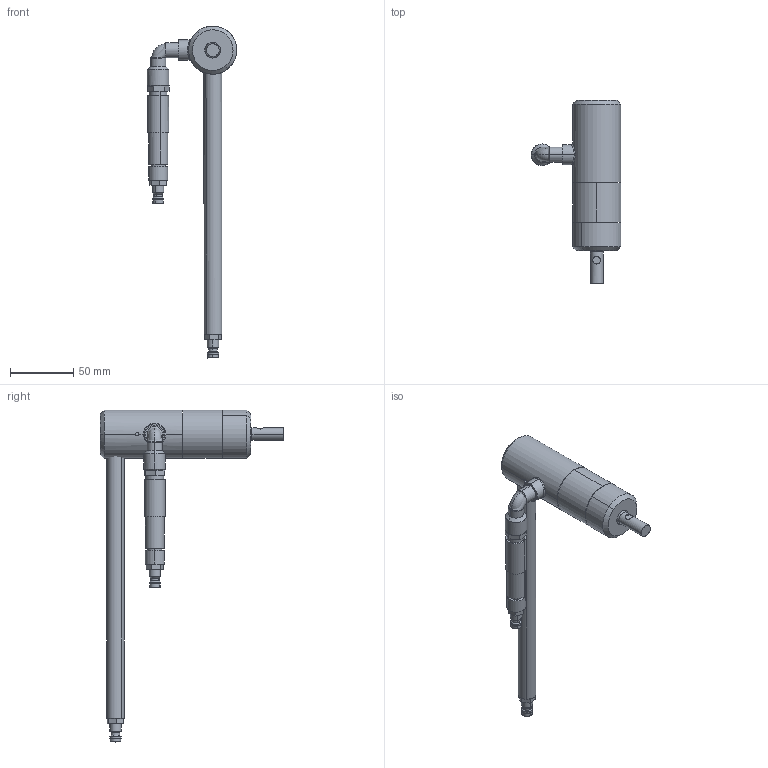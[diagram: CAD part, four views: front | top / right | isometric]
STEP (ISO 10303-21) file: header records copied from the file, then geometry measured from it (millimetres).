
FILE_DESCRIPTION (( 'STEP AP214' ), '1' );
FILE_NAME ('PLR10GA.STEP', '2019-03-11T15:04:12', ( '' ), ( '' ), 'SwSTEP 2.0', 'SolidWorks 2018', '' );
FILE_SCHEMA (( 'AUTOMOTIVE_DESIGN' ));
Length unit declared in the file: millimetre
Products named in the file (13): PLR10GA; Halterohr GA; Rändelschraube GA; Schnellkupplung; Ventil; Rändelschraube; Winkel; Kopie von Distanzring PLR 11^PLR10GA; Kopie von Verschluss PLR 11^PLR10GA; Kopie von Deckel PLR 11^PLR10GA; Kopie von Stator PLR 11^PLR10GA; Kopie von Rotor PLR 11^PLR10GA; Kopie von Motorblock PLR 11^PLR10GA
Assembly tree (13 placements, depth 3):
  PLR10GA
    Kopie von Motorblock PLR 11^PLR10GA
    Kopie von Rotor PLR 11^PLR10GA
    Kopie von Stator PLR 11^PLR10GA
    Kopie von Deckel PLR 11^PLR10GA
    Kopie von Verschluss PLR 11^PLR10GA
    Kopie von Distanzring PLR 11^PLR10GA
    Winkel
    Rändelschraube GA
      Rändelschraube
      Ventil
      Schnellkupplung
    Halterohr GA
    Schnellkupplung
Bounding box: 70.71 x 144.5 x 261.61 mm (x, y, z)
Volume: 183002.1 mm3; surface area: 77270.2 mm2
Topology: 12 solids, 12 shells, 263 faces, 548 edges, 346 vertices
Faces by surface type: cylinder 138, plane 87, cone 26, torus 10, bspline 2
Entity records: 7794 total; most frequent: CARTESIAN_POINT 1823, DIRECTION 1212, ORIENTED_EDGE 952, AXIS2_PLACEMENT_3D 515, EDGE_CURVE 476, VERTEX_POINT 304, EDGE_LOOP 284, CIRCLE 268
